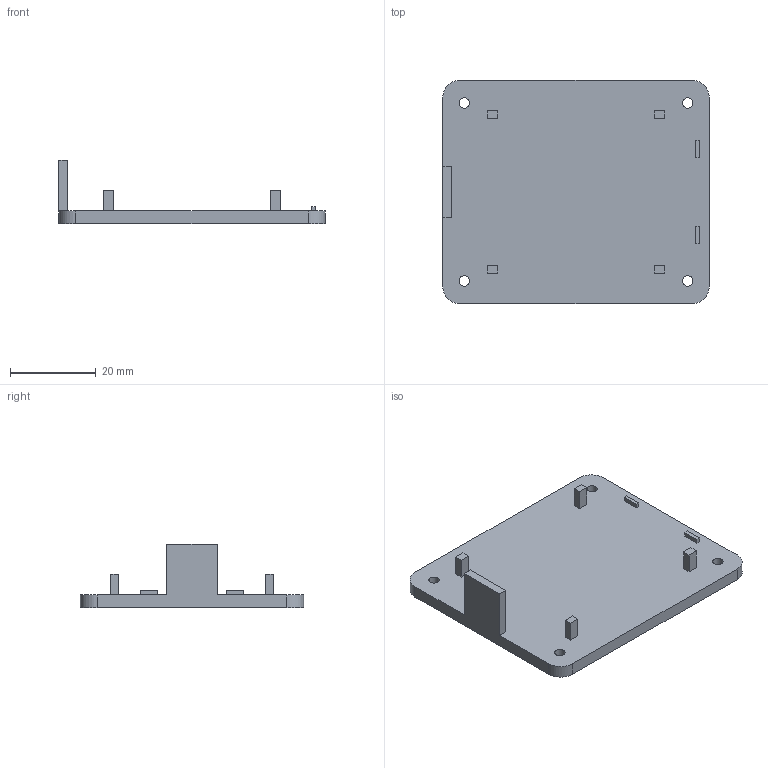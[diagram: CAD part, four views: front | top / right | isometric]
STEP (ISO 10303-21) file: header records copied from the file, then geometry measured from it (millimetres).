
FILE_DESCRIPTION(('Open CASCADE Model'),'2;1');
FILE_NAME('Open CASCADE Shape Model','2026-11-08T21:30:43',('Author'),( 'Open CASCADE'),'Open CASCADE STEP processor 7.8','Open CASCADE 7.8' ,'Unknown');
FILE_SCHEMA(('AUTOMOTIVE_DESIGN { 1 0 10303 214 1 1 1 1 }'));
Length unit declared in the file: millimetre
Products named in the file (1): Open CASCADE STEP translator 7.8 2
Bounding box: 62 x 52 x 14.8 mm (x, y, z)
Volume: 9919 mm3; surface area: 7629.3 mm2
Topology: 1 solids, 1 shells, 52 faces, 128 edges, 84 vertices
Faces by surface type: plane 40, cylinder 8, cone 4
Full cylindrical faces by diameter (mm): 2.4 x4
Entity records: 3228 total; most frequent: CARTESIAN_POINT 557, DIRECTION 504, LINE 348, VECTOR 348, ORIENTED_EDGE 256, PCURVE 256, DEFINITIONAL_REPRESENTATION 256, EDGE_CURVE 128
